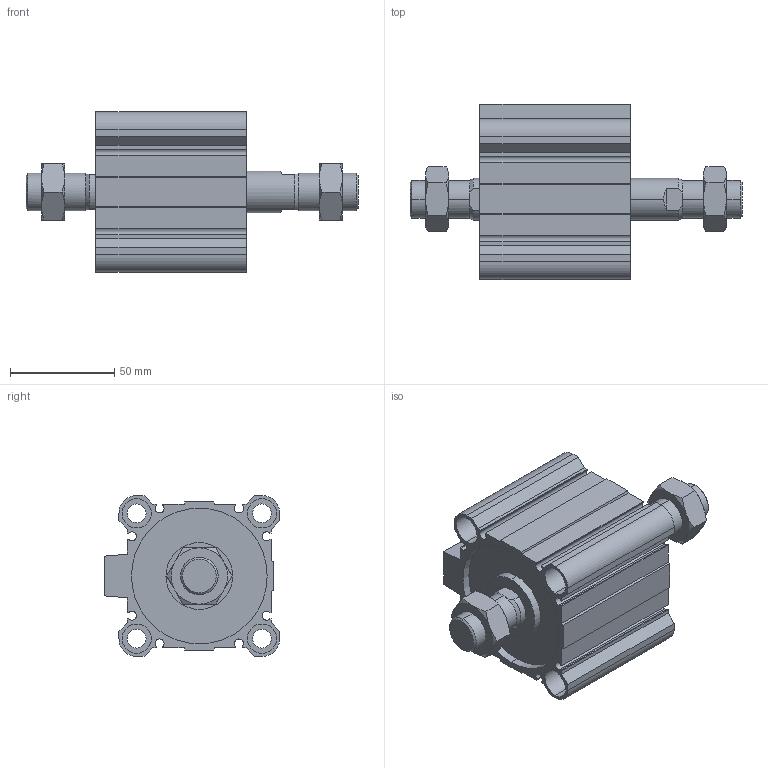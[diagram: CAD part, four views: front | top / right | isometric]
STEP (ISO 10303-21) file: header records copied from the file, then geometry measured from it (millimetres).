
FILE_DESCRIPTION (( 'STEP AP203' ), '1' );
FILE_NAME ('CCMB63-20M-P.STEP', '2020-08-10T11:49:23', ( '' ), ( '' ), 'SwSTEP 2.0', 'SolidWorks 2019', '' );
FILE_SCHEMA (( 'CONFIG_CONTROL_DESIGN' ));
Length unit declared in the file: millimetre
Products named in the file (1): CCMB63-20M-P
Bounding box: 159 x 84 x 77 mm (x, y, z)
Volume: 304053.1 mm3; surface area: 92375.8 mm2
Topology: 4 solids, 4 shells, 232 faces, 570 edges, 364 vertices
Faces by surface type: plane 110, cylinder 78, cone 44
Entity records: 7569 total; most frequent: CARTESIAN_POINT 1939, DIRECTION 1176, ORIENTED_EDGE 1140, EDGE_CURVE 570, AXIS2_PLACEMENT_3D 437, VERTEX_POINT 364, LINE 302, VECTOR 302
